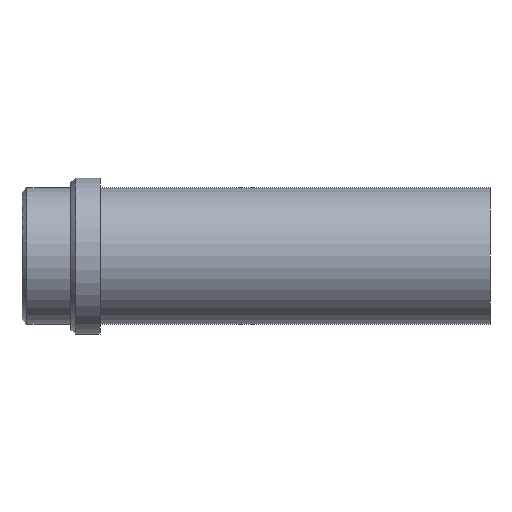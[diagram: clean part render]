
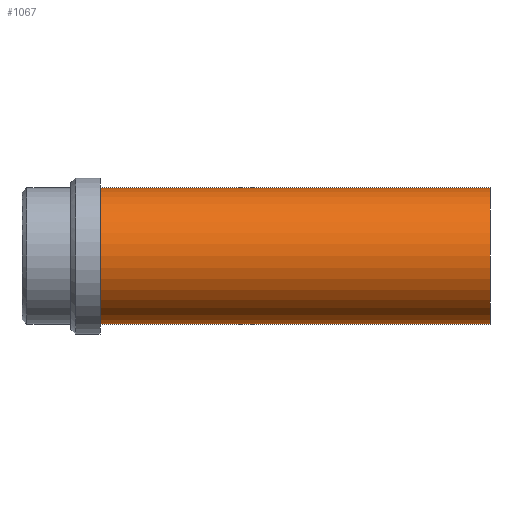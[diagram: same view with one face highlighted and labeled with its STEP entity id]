
A CAD part, front view. The second image highlights one B-rep face of the part: STEP entity #1067.
In plain terms, the highlighted cylindrical face has radius 14 mm (diameter 28 mm), a partial arc.
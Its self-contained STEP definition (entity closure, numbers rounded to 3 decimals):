
#953=CARTESIAN_POINT('Vertex',(0.,0.,-14.)) ;
#958=CARTESIAN_POINT('Axis2P3D Location',(0.,0.,0.)) ;
#962=CARTESIAN_POINT('Vertex',(0.,-14.,0.)) ;
#965=CARTESIAN_POINT('Axis2P3D Location',(0.,0.,0.)) ;
#969=CARTESIAN_POINT('Vertex',(0.,0.,14.)) ;
#995=CARTESIAN_POINT('Vertex',(80.,0.,14.)) ;
#998=CARTESIAN_POINT('Axis2P3D Location',(80.,0.,0.)) ;
#1002=CARTESIAN_POINT('Vertex',(80.,-14.,0.)) ;
#1005=CARTESIAN_POINT('Axis2P3D Location',(80.,0.,0.)) ;
#1009=CARTESIAN_POINT('Vertex',(80.,0.,-14.)) ;
#1035=CARTESIAN_POINT('Line Origine',(80.,0.,14.)) ;
#1040=CARTESIAN_POINT('Line Origine',(80.,0.,-14.)) ;
#1054=CARTESIAN_POINT('Axis2P3D Location',(80.,0.,0.)) ;
#959=DIRECTION('Axis2P3D Direction',(1.,0.,-0.)) ;
#966=DIRECTION('Axis2P3D Direction',(1.,0.,-0.)) ;
#999=DIRECTION('Axis2P3D Direction',(1.,0.,-0.)) ;
#1006=DIRECTION('Axis2P3D Direction',(1.,0.,-0.)) ;
#1036=DIRECTION('Vector Direction',(-1.,0.,0.)) ;
#1041=DIRECTION('Vector Direction',(-1.,0.,0.)) ;
#1055=DIRECTION('Axis2P3D Direction',(-1.,-0.,-0.)) ;
#1056=DIRECTION('Axis2P3D XDirection',(0.,0.,-1.)) ;
#960=AXIS2_PLACEMENT_3D('Circle Axis2P3D',#958,#959,$) ;
#967=AXIS2_PLACEMENT_3D('Circle Axis2P3D',#965,#966,$) ;
#1000=AXIS2_PLACEMENT_3D('Circle Axis2P3D',#998,#999,$) ;
#1007=AXIS2_PLACEMENT_3D('Circle Axis2P3D',#1005,#1006,$) ;
#1057=AXIS2_PLACEMENT_3D('Cylinder Axis2P3D',#1054,#1055,#1056) ;
#1060=ORIENTED_EDGE('',*,*,#1044,.T.) ;
#1061=ORIENTED_EDGE('',*,*,#1011,.F.) ;
#1062=ORIENTED_EDGE('',*,*,#1004,.F.) ;
#1063=ORIENTED_EDGE('',*,*,#1039,.T.) ;
#1064=ORIENTED_EDGE('',*,*,#971,.T.) ;
#1065=ORIENTED_EDGE('',*,*,#964,.T.) ;
#1037=VECTOR('Line Direction',#1036,1.) ;
#1042=VECTOR('Line Direction',#1041,1.) ;
#1067=ADVANCED_FACE('358-20X96',(#1066),#1058,.T.) ;
#961=CIRCLE('generated circle',#960,14.) ;
#968=CIRCLE('generated circle',#967,14.) ;
#1001=CIRCLE('generated circle',#1000,14.) ;
#1008=CIRCLE('generated circle',#1007,14.) ;
#1058=CYLINDRICAL_SURFACE('generated cylinder',#1057,14.) ;
#964=EDGE_CURVE('',#963,#954,#961,.T.) ;
#971=EDGE_CURVE('',#970,#963,#968,.T.) ;
#1004=EDGE_CURVE('',#996,#1003,#1001,.T.) ;
#1011=EDGE_CURVE('',#1003,#1010,#1008,.T.) ;
#1039=EDGE_CURVE('',#996,#970,#1038,.T.) ;
#1044=EDGE_CURVE('',#954,#1010,#1043,.F.) ;
#1059=EDGE_LOOP('',(#1060,#1061,#1062,#1063,#1064,#1065)) ;
#1066=FACE_OUTER_BOUND('',#1059,.T.) ;
#1038=LINE('Line',#1035,#1037) ;
#1043=LINE('Line',#1040,#1042) ;
#954=VERTEX_POINT('',#953) ;
#963=VERTEX_POINT('',#962) ;
#970=VERTEX_POINT('',#969) ;
#996=VERTEX_POINT('',#995) ;
#1003=VERTEX_POINT('',#1002) ;
#1010=VERTEX_POINT('',#1009) ;
